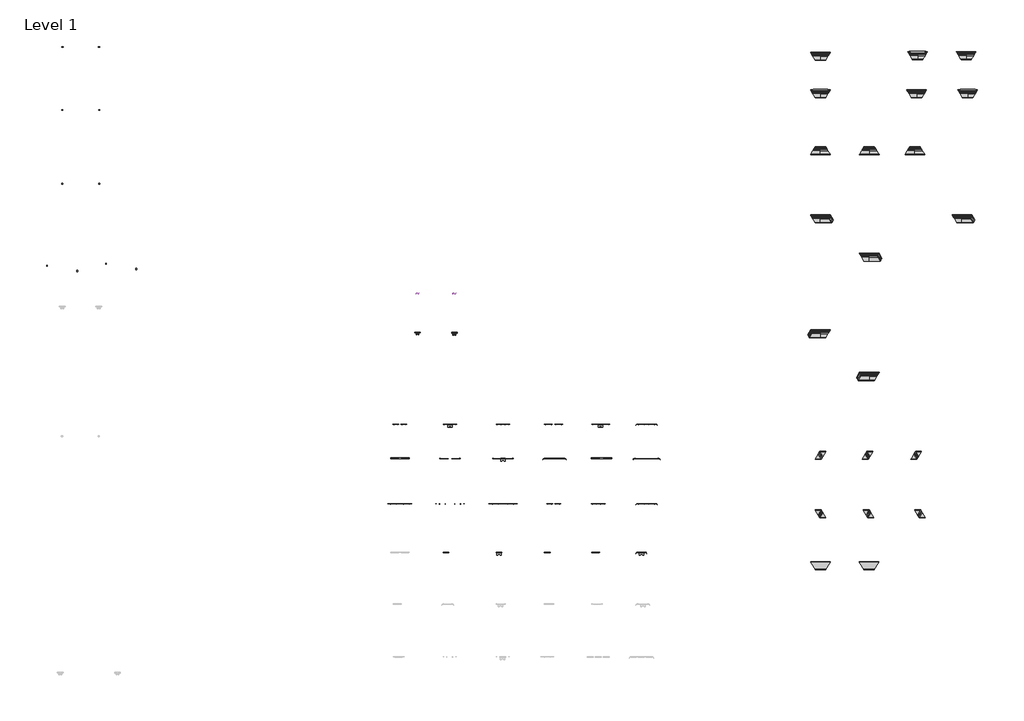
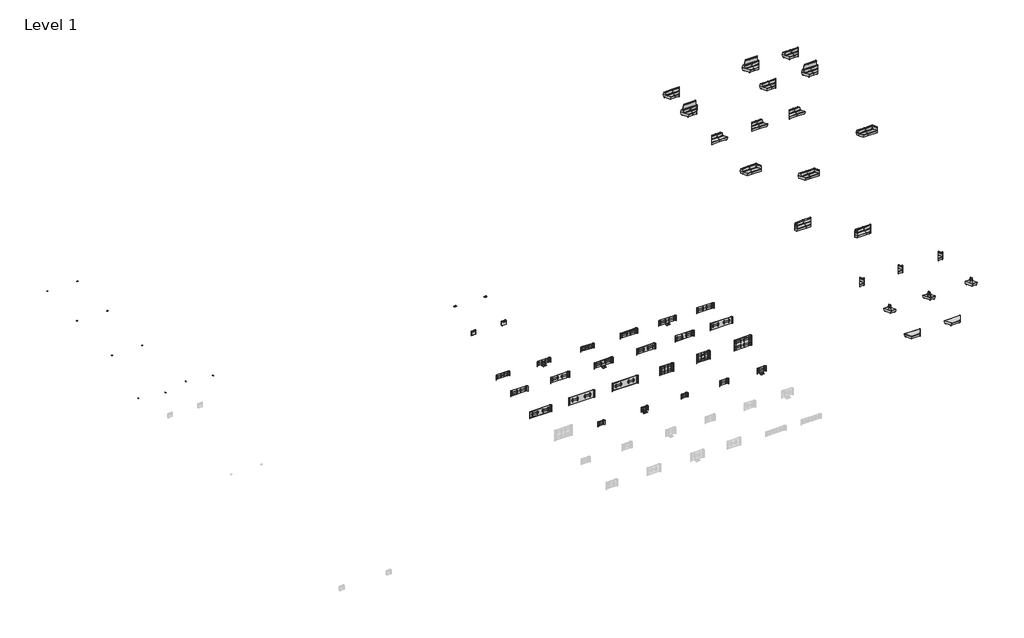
# One storey, part 2 of 2: 59 furniture elements.
"""IFC4 building model written with IfcOpenShell, lengths in millimetres."""

from ifc_helpers import new_model, si_unit, origin, place, context, project, spatial, transform, mapped, element, save
from components import furniture_814a4d4c, furniture_2_1_2in_ef0c8fad, furniture_5_1_2in_ac73947f, multiple_upholstery_front_seat_c7e5a67b, same_upholstery_e157f741, steelcase_media_scape_camera_ledge_e30b2916, steelcase_media_scape_camera_ledge_shroud_mounted_e9ef200e, steelcase_media_scape_lounge_corner_left_multiple_upholstery_f64f1bea, steelcase_media_scape_lounge_corner_left_multiple_upholstery_6188d228, steelcase_media_scape_lounge_corner_left_same_upholstery_da140575, steelcase_media_scape_lounge_corner_right_multiple_61df472c, steelcase_media_scape_lounge_corner_right_same_upholstery_34d01177, steelcase_media_scape_lounge_reverse_left_multiple_538b377f, steelcase_media_scape_lounge_reverse_left_multiple_c18cf6bd, steelcase_media_scape_lounge_reverse_left_same_upholstery_83d11a1b, steelcase_media_scape_lounge_reverse_right_multiple_dd48c680, steelcase_media_scape_lounge_reverse_right_multiple_c0631099, steelcase_media_scape_lounge_reverse_right_same_upholstery_5d3c57fe, steelcase_media_scape_lounge_straight_multiple_upholstery_88f133c7, steelcase_media_scape_lounge_straight_multiple_upholstery_894a7443, steelcase_media_scape_lounge_straight_multiple_upholstery_0c6f12ab, steelcase_media_scape_lounge_straight_multiple_upholstery_071ac3ef, steelcase_media_scape_lounge_straight_multiple_upholstery_2f746f6f, steelcase_media_scape_lounge_straight_same_upholstery_78731be7, steelcase_media_scape_lounge_straight_same_upholstery_with_4bab1c11, steelcase_media_scape_lounge_straight_inverted_multiple_60ef6d6e, steelcase_media_scape_lounge_straight_inverted_multiple_55383deb, steelcase_media_scape_lounge_straight_inverted_same_f796253b, steelcase_media_scape_wall_mounted_shroud_0ad77aa0, steelcase_media_scape_wall_mounted_shroud_3b4f5210, steelcase_media_scape_wall_mounted_shroud_dual_32in_642b713b, steelcase_media_scape_wall_mounted_shroud_dual_32in_bridge_86ff4495, steelcase_media_scape_wall_mounted_shroud_dual_32in_seismic_00f41bd9, steelcase_media_scape_wall_mounted_shroud_dual_42in_44a79b45, steelcase_media_scape_wall_mounted_shroud_dual_42in_bridge_5625bba1, steelcase_media_scape_wall_mounted_shroud_dual_42in_seismic_7c51b7b5, steelcase_media_scape_wall_mounted_shroud_dual_46in_777ef326, steelcase_media_scape_wall_mounted_shroud_dual_46in_bridge_60c83677, steelcase_media_scape_wall_mounted_shroud_dual_46in_seismic_48c09d2e, steelcase_media_scape_wall_mounted_shroud_dual_55in_971d0c28, steelcase_media_scape_wall_mounted_shroud_dual_55in_seismic_f6d9643f, steelcase_media_scape_wall_mounted_shroud_dual_65in_c082a8a5, steelcase_media_scape_wall_mounted_shroud_dual_65in_seismic_f65bf8d6, steelcase_media_scape_wall_mounted_shroud_quad_32in_d3d1e193, steelcase_media_scape_wall_mounted_shroud_quad_32in_seismic_8338c1e4, steelcase_media_scape_wall_mounted_shroud_quad_42in_seismic_1889dec9, steelcase_media_scape_wall_mounted_shroud_single_32in_a1e36d21, steelcase_media_scape_wall_mounted_shroud_single_32in_bridge_9d07bd64, steelcase_media_scape_wall_mounted_shroud_single_32in_7cdeb264, steelcase_media_scape_wall_mounted_shroud_single_42in_983a13c6, steelcase_media_scape_wall_mounted_shroud_single_42in_bridge_d577d0ef

model = new_model("IFC4")

# Units and contexts
model_context = context("Model", 3, world=origin())
ifc_project = project(units=[si_unit("LENGTHUNIT", "METRE", prefix="MILLI")], contexts=[model_context])

# Site, building, storey
site = spatial("IfcSite", under=ifc_project)
building = spatial("IfcBuilding", under=site)
storey = spatial("IfcBuildingStorey", under=building, Name="Level 1", Elevation=0.0)

# Furniture
placement = place(None, origin())
furniture_shape = furniture_814a4d4c(model_context)
element("IfcFurniture", 1, ObjectType="Steelcase - Media Scape - CODEC Case : No Codec Case", at=placement, inside=storey, context=model_context, shape_type="MappedRepresentation", body=[
    mapped(furniture_shape, transform((27687.2903336, -85800.9933016, 257.911593), x_axis=(1.0, 0.0, 0.0), y_axis=(0.0, 1.0, 0.0), z_axis=(0.0, 0.0, 1.0))),
])
element("IfcFurniture", 2, ObjectType="Steelcase - Media Scape - CODEC Case : No Codec Case", at=placement, inside=storey, context=model_context, shape_type="MappedRepresentation", body=[
    mapped(furniture_shape, transform((31519.0665812, -85800.9933016, 257.911593), x_axis=(1.0, 0.0, 0.0), y_axis=(0.0, 1.0, 0.0), z_axis=(0.0, 0.0, 1.0))),
])
element("IfcFurniture", 3, ObjectType="Steelcase - Media Scape - CODEC Case : No Codec Case", at=placement, inside=storey, context=model_context, shape_type="MappedRepresentation", body=[
    mapped(furniture_shape, transform((27699.7513491, -71642.531423, 250.6599), x_axis=(1.0, 0.0, 0.0), y_axis=(0.0, 1.0, 0.0), z_axis=(0.0, 0.0, 1.0))),
])
element("IfcFurniture", 4, ObjectType="Steelcase - Media Scape - CODEC Case : No Codec Case", at=placement, inside=storey, context=model_context, shape_type="MappedRepresentation", body=[
    mapped(furniture_shape, transform((31499.7775966, -71642.531423, 250.6599), x_axis=(1.0, 0.0, 0.0), y_axis=(0.0, 1.0, 0.0), z_axis=(0.0, 0.0, 1.0))),
])
element("IfcFurniture", 5, ObjectType="Steelcase - Media Scape - CODEC Case : No Codec Case", at=placement, inside=storey, context=model_context, shape_type="MappedRepresentation", body=[
    mapped(furniture_shape, transform((27687.2928742, -78175.9995997, 257.9116128), x_axis=(1.0, 0.0, 0.0), y_axis=(0.0, 1.0, 0.0), z_axis=(0.0, 0.0, 1.0))),
])
element("IfcFurniture", 6, ObjectType="Steelcase - Media Scape - CODEC Case : No Codec Case", at=placement, inside=storey, context=model_context, shape_type="MappedRepresentation", body=[
    mapped(furniture_shape, transform((31519.0691218, -78175.9995997, 257.9116128), x_axis=(1.0, 0.0, 0.0), y_axis=(0.0, 1.0, 0.0), z_axis=(0.0, 0.0, 1.0))),
])
element("IfcFurniture", 7, ObjectType="Steelcase - Media Scape - CODEC Case : No Codec Case", at=placement, inside=storey, context=model_context, shape_type="MappedRepresentation", body=[
    mapped(furniture_shape, transform((29052.0123767, -94662.6378431, 244.3098657), x_axis=(0.0, -1.0, 0.0), y_axis=(1.0, 0.0, 0.0), z_axis=(0.0, 0.0, 1.0))),
])
element("IfcFurniture", 8, ObjectType="Steelcase - Media Scape - CODEC Case : No Codec Case", at=placement, inside=storey, context=model_context, shape_type="MappedRepresentation", body=[
    mapped(furniture_shape, transform((26280.9344271, -94112.1109768, 244.3098657), x_axis=(0.0, 1.0000000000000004, 0.0), y_axis=(-1.0000000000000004, 0.0, 0.0), z_axis=(0.0, 0.0, 1.0))),
])
element("IfcFurniture", 9, ObjectType="Steelcase - Media Scape - CODEC Case : No Codec Case", at=placement, inside=storey, context=model_context, shape_type="MappedRepresentation", body=[
    mapped(furniture_shape, transform((35172.229323, -94463.7635337, 244.3098657), x_axis=(0.0, -1.0, 0.0), y_axis=(1.0, 0.0, 0.0), z_axis=(0.0, 0.0, 1.0))),
])
element("IfcFurniture", 10, ObjectType="Steelcase - Media Scape - CODEC Case : No Codec Case", at=placement, inside=storey, context=model_context, shape_type="MappedRepresentation", body=[
    mapped(furniture_shape, transform((32401.1513734, -93913.2366673, 244.3098657), x_axis=(0.0, 1.0000000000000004, 0.0), y_axis=(-1.0000000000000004, 0.0, 0.0), z_axis=(0.0, 0.0, 1.0))),
])
furniture_2_1_2in_shape = furniture_2_1_2in_ef0c8fad(model_context)
element("IfcFurniture", 11, ObjectType="Steelcase - Media Scape - CODEC Case : 2 1/2in", at=placement, inside=storey, context=model_context, shape_type="MappedRepresentation", body=[
    mapped(furniture_2_1_2in_shape, transform((64463.7750238, -101200.6133307, 0.0), x_axis=(1.0, 0.0, 0.0), y_axis=(0.0, 1.0, 0.0), z_axis=(0.0, 0.0, 1.0))),
])
furniture_5_1_2in_shape = furniture_5_1_2in_ac73947f(model_context)
element("IfcFurniture", 12, ObjectType="Steelcase - Media Scape - CODEC Case : 5 1/2in", at=placement, inside=storey, context=model_context, shape_type="MappedRepresentation", body=[
    mapped(furniture_5_1_2in_shape, transform((68273.7750238, -101200.6133307, 0.0), x_axis=(1.0, 0.0, 0.0), y_axis=(0.0, 1.0, 0.0), z_axis=(0.0, 0.0, 1.0))),
])
multiple_upholstery_front_seat_shape = multiple_upholstery_front_seat_c7e5a67b(model_context)
element("IfcFurniture", 13, ObjectType="Steelcase - Media Scape - Lounge - Backless : Multiple Upholstery - Front Seat", at=placement, inside=storey, context=model_context, shape_type="MappedRepresentation", body=[
    mapped(multiple_upholstery_front_seat_shape, transform((105647.292558, -125586.0395077, 0.0), x_axis=(1.0, 0.0, 0.0), y_axis=(0.0, 1.0, 0.0), z_axis=(0.0, 0.0, 1.0))),
])
same_upholstery_shape = same_upholstery_e157f741(model_context)
element("IfcFurniture", 14, ObjectType="Steelcase - Media Scape - Lounge - Backless : Same Upholstery", at=placement, inside=storey, context=model_context, shape_type="MappedRepresentation", body=[
    mapped(same_upholstery_shape, transform((110676.492558, -125586.0395077, 0.0), x_axis=(1.0, 0.0, 0.0), y_axis=(0.0, 1.0, 0.0), z_axis=(0.0, 0.0, 1.0))),
])
steelcase_media_scape_camera_ledge_shape = steelcase_media_scape_camera_ledge_e30b2916(model_context)
element("IfcFurniture", 15, ObjectType="Steelcase - Media Scape - Camera Ledge : Totem Mounted", at=placement, inside=storey, context=model_context, shape_type="MappedRepresentation", body=[
    mapped(steelcase_media_scape_camera_ledge_shape, transform((68273.7750238, -97085.8133307, 0.0), x_axis=(1.0, 0.0, 0.0), y_axis=(0.0, 1.0, 0.0), z_axis=(0.0, 0.0, 1.0))),
])
steelcase_media_scape_camera_ledge_shroud_mounted_shape = steelcase_media_scape_camera_ledge_shroud_mounted_e9ef200e(model_context)
element("IfcFurniture", 16, ObjectType="Steelcase - Media Scape - Camera Ledge : Shroud Mounted", at=placement, inside=storey, context=model_context, shape_type="MappedRepresentation", body=[
    mapped(steelcase_media_scape_camera_ledge_shroud_mounted_shape, transform((64463.7750238, -97085.8133307, 0.0), x_axis=(1.0, 0.0, 0.0), y_axis=(0.0, 1.0, 0.0), z_axis=(0.0, 0.0, 1.0))),
])
steelcase_media_scape_lounge_corner_left_multiple_upholstery_shape = steelcase_media_scape_lounge_corner_left_multiple_upholstery_f64f1bea(model_context)
element("IfcFurniture", 17, ObjectType="Steelcase - Media Scape - Lounge - Corner Left : Multiple Upholstery - Edge", at=placement, inside=storey, context=model_context, shape_type="MappedRepresentation", body=[
    mapped(steelcase_media_scape_lounge_corner_left_multiple_upholstery_shape, transform((105643.8026188, -89689.4435496, 0.0), x_axis=(1.0, 0.0, 0.0), y_axis=(0.0, 1.0, 0.0), z_axis=(0.0, 0.0, 1.0))),
])
steelcase_media_scape_lounge_corner_left_multiple_upholstery_2_shape = steelcase_media_scape_lounge_corner_left_multiple_upholstery_6188d228(model_context)
element("IfcFurniture", 18, ObjectType="Steelcase - Media Scape - Lounge - Corner Left : Multiple Upholstery - Front Seat and Back", at=placement, inside=storey, context=model_context, shape_type="MappedRepresentation", body=[
    mapped(steelcase_media_scape_lounge_corner_left_multiple_upholstery_2_shape, transform((120298.0736281, -89689.4435496, 0.0), x_axis=(1.0, 0.0, 0.0), y_axis=(0.0, 1.0, 0.0), z_axis=(0.0, 0.0, 1.0))),
])
steelcase_media_scape_lounge_corner_left_same_upholstery_shape = steelcase_media_scape_lounge_corner_left_same_upholstery_da140575(model_context)
element("IfcFurniture", 19, ObjectType="Steelcase - Media Scape - Lounge - Corner Left : Same Upholstery", at=placement, inside=storey, context=model_context, shape_type="MappedRepresentation", body=[
    mapped(steelcase_media_scape_lounge_corner_left_same_upholstery_shape, transform((110696.8736281, -93651.8435496, 0.0), x_axis=(1.0, 0.0, 0.0), y_axis=(0.0, 1.0, 0.0), z_axis=(0.0, 0.0, 1.0))),
])
steelcase_media_scape_lounge_corner_right_multiple_shape = steelcase_media_scape_lounge_corner_right_multiple_61df472c(model_context)
element("IfcFurniture", 20, ObjectType="Steelcase - Media Scape - Lounge - Corner Right : Multiple Upholstery - Edge", at=placement, inside=storey, context=model_context, shape_type="MappedRepresentation", body=[
    mapped(steelcase_media_scape_lounge_corner_right_multiple_shape, transform((106708.7102025, -101576.6435496, 0.0), x_axis=(1.0, 0.0, 0.0), y_axis=(0.0, 1.0, 0.0), z_axis=(0.0, 0.0, 1.0))),
])
steelcase_media_scape_lounge_corner_right_same_upholstery_shape = steelcase_media_scape_lounge_corner_right_same_upholstery_34d01177(model_context)
element("IfcFurniture", 21, ObjectType="Steelcase - Media Scape - Lounge - Corner Right : Same Upholstery", at=placement, inside=storey, context=model_context, shape_type="MappedRepresentation", body=[
    mapped(steelcase_media_scape_lounge_corner_right_same_upholstery_shape, transform((111761.7812119, -105996.2435496, 0.0), x_axis=(1.0, 0.0, 0.0), y_axis=(0.0, 1.0, 0.0), z_axis=(0.0, 0.0, 1.0))),
])
steelcase_media_scape_lounge_reverse_left_multiple_shape = steelcase_media_scape_lounge_reverse_left_multiple_538b377f(model_context)
element("IfcFurniture", 22, ObjectType="Steelcase - Media Scape - Lounge - Reverse Left : Multiple Upholstery - Edge", at=placement, inside=storey, context=model_context, shape_type="MappedRepresentation", body=[
    mapped(steelcase_media_scape_lounge_reverse_left_multiple_shape, transform((105630.4554525, -114153.938484, 0.0), x_axis=(1.0, 0.0, 0.0), y_axis=(0.0, 1.0, 0.0), z_axis=(0.0, 0.0, 1.0))),
])
steelcase_media_scape_lounge_reverse_left_multiple_2_shape = steelcase_media_scape_lounge_reverse_left_multiple_c18cf6bd(model_context)
element("IfcFurniture", 23, ObjectType="Steelcase - Media Scape - Lounge - Reverse Left : Multiple Upholstery - Front Seat and Back", at=placement, inside=storey, context=model_context, shape_type="MappedRepresentation", body=[
    mapped(steelcase_media_scape_lounge_reverse_left_multiple_2_shape, transform((110507.2554525, -114153.938484, 0.0), x_axis=(1.0, 0.0, 0.0), y_axis=(0.0, 1.0, 0.0), z_axis=(0.0, 0.0, 1.0))),
])
steelcase_media_scape_lounge_reverse_left_same_upholstery_shape = steelcase_media_scape_lounge_reverse_left_same_upholstery_83d11a1b(model_context)
element("IfcFurniture", 24, ObjectType="Steelcase - Media Scape - Lounge - Reverse Left : Same Upholstery", at=placement, inside=storey, context=model_context, shape_type="MappedRepresentation", body=[
    mapped(steelcase_media_scape_lounge_reverse_left_same_upholstery_shape, transform((115542.8054525, -114153.938484, 0.0), x_axis=(1.0, 0.0, 0.0), y_axis=(0.0, 1.0, 0.0), z_axis=(0.0, 0.0, 1.0))),
])
steelcase_media_scape_lounge_reverse_right_multiple_shape = steelcase_media_scape_lounge_reverse_right_multiple_dd48c680(model_context)
element("IfcFurniture", 25, ObjectType="Steelcase - Media Scape - Lounge - Reverse Right : Multiple Upholstery - Edge", at=placement, inside=storey, context=model_context, shape_type="MappedRepresentation", body=[
    mapped(steelcase_media_scape_lounge_reverse_right_multiple_shape, transform((106729.0054525, -120224.9604191, 0.0), x_axis=(1.0, 0.0, 0.0), y_axis=(0.0, 1.0, 0.0), z_axis=(0.0, 0.0, 1.0))),
])
steelcase_media_scape_lounge_reverse_right_multiple_2_shape = steelcase_media_scape_lounge_reverse_right_multiple_c0631099(model_context)
element("IfcFurniture", 26, ObjectType="Steelcase - Media Scape - Lounge - Reverse Right : Multiple Upholstery - Front Seat and Back", at=placement, inside=storey, context=model_context, shape_type="MappedRepresentation", body=[
    mapped(steelcase_media_scape_lounge_reverse_right_multiple_2_shape, transform((111707.4054525, -120224.9604191, 0.0), x_axis=(1.0, 0.0, 0.0), y_axis=(0.0, 1.0, 0.0), z_axis=(0.0, 0.0, 1.0))),
])
steelcase_media_scape_lounge_reverse_right_same_upholstery_shape = steelcase_media_scape_lounge_reverse_right_same_upholstery_5d3c57fe(model_context)
element("IfcFurniture", 27, ObjectType="Steelcase - Media Scape - Lounge - Reverse Right : Same Upholstery", at=placement, inside=storey, context=model_context, shape_type="MappedRepresentation", body=[
    mapped(steelcase_media_scape_lounge_reverse_right_same_upholstery_shape, transform((117017.7850824, -120224.9604191, 0.0), x_axis=(1.0, 0.0, 0.0), y_axis=(0.0, 1.0, 0.0), z_axis=(0.0, 0.0, 1.0))),
])
steelcase_media_scape_lounge_straight_multiple_upholstery_shape = steelcase_media_scape_lounge_straight_multiple_upholstery_88f133c7(model_context)
element("IfcFurniture", 28, ObjectType="Steelcase - Media Scape - Lounge - Straight : Multiple Upholstery - Edge", at=placement, inside=storey, context=model_context, shape_type="MappedRepresentation", body=[
    mapped(steelcase_media_scape_lounge_straight_multiple_upholstery_shape, transform((105647.292558, -72853.538484, 0.0), x_axis=(1.0, 0.0, 0.0), y_axis=(0.0, 1.0, 0.0), z_axis=(0.0, 0.0, 1.0))),
])
steelcase_media_scape_lounge_straight_multiple_upholstery_2_shape = steelcase_media_scape_lounge_straight_multiple_upholstery_894a7443(model_context)
element("IfcFurniture", 29, ObjectType="Steelcase - Media Scape - Lounge - Straight : Multiple Upholstery - Edge with Canopy", at=placement, inside=storey, context=model_context, shape_type="MappedRepresentation", body=[
    mapped(steelcase_media_scape_lounge_straight_multiple_upholstery_2_shape, transform((115705.692558, -72773.0435496, 0.0), x_axis=(1.0, 0.0, 0.0), y_axis=(0.0, 1.0, 0.0), z_axis=(0.0, 0.0, 1.0))),
])
steelcase_media_scape_lounge_straight_multiple_upholstery_3_shape = steelcase_media_scape_lounge_straight_multiple_upholstery_0c6f12ab(model_context)
element("IfcFurniture", 30, ObjectType="Steelcase - Media Scape - Lounge - Straight : Multiple Upholstery - Front Seat and Back", at=placement, inside=storey, context=model_context, shape_type="MappedRepresentation", body=[
    mapped(steelcase_media_scape_lounge_straight_multiple_upholstery_3_shape, transform((120734.892558, -72773.0435496, 0.0), x_axis=(1.0, 0.0, 0.0), y_axis=(0.0, 1.0, 0.0), z_axis=(0.0, 0.0, 1.0))),
])
steelcase_media_scape_lounge_straight_multiple_upholstery_4_shape = steelcase_media_scape_lounge_straight_multiple_upholstery_071ac3ef(model_context)
steelcase_media_scape_lounge_straight_multiple_upholstery_5_shape = steelcase_media_scape_lounge_straight_multiple_upholstery_2f746f6f(model_context)
element("IfcFurniture", 31, ObjectType="Steelcase - Media Scape - Lounge - Straight : Multiple Upholstery - Front Seat and Back with Canopy", at=placement, inside=storey, context=model_context, shape_type="MappedRepresentation", body=[
    mapped(steelcase_media_scape_lounge_straight_multiple_upholstery_4_shape, transform((105647.292558, -76735.4435496, 0.0), x_axis=(1.0, 0.0, 0.0), y_axis=(0.0, 1.0, 0.0), z_axis=(0.0, 0.0, 1.0))),
    mapped(steelcase_media_scape_lounge_straight_multiple_upholstery_5_shape, transform((105647.292558, -76735.4435496, 0.0), x_axis=(1.0, 0.0, 0.0), y_axis=(0.0, 1.0, 0.0), z_axis=(0.0, 0.0, 1.0))),
])
steelcase_media_scape_lounge_straight_same_upholstery_shape = steelcase_media_scape_lounge_straight_same_upholstery_78731be7(model_context)
element("IfcFurniture", 32, ObjectType="Steelcase - Media Scape - Lounge - Straight : Same Upholstery", at=placement, inside=storey, context=model_context, shape_type="MappedRepresentation", body=[
    mapped(steelcase_media_scape_lounge_straight_same_upholstery_shape, transform((115604.092558, -76735.4435496, 0.0), x_axis=(1.0, 0.0, 0.0), y_axis=(0.0, 1.0, 0.0), z_axis=(0.0, 0.0, 1.0))),
])
steelcase_media_scape_lounge_straight_same_upholstery_with_shape = steelcase_media_scape_lounge_straight_same_upholstery_with_4bab1c11(model_context)
element("IfcFurniture", 33, ObjectType="Steelcase - Media Scape - Lounge - Straight : Same Upholstery with Canopy", at=placement, inside=storey, context=model_context, shape_type="MappedRepresentation", body=[
    mapped(steelcase_media_scape_lounge_straight_same_upholstery_with_shape, transform((120887.292558, -76735.4435496, 0.0), x_axis=(1.0, 0.0, 0.0), y_axis=(0.0, 1.0, 0.0), z_axis=(0.0, 0.0, 1.0))),
])
steelcase_media_scape_lounge_straight_inverted_multiple_shape = steelcase_media_scape_lounge_straight_inverted_multiple_60ef6d6e(model_context)
element("IfcFurniture", 34, ObjectType="Steelcase - Media Scape - Lounge - Straight Inverted : Multiple Upholstery - Edge", at=placement, inside=storey, context=model_context, shape_type="MappedRepresentation", body=[
    mapped(steelcase_media_scape_lounge_straight_inverted_multiple_shape, transform((105161.5610959, -82607.138484, 0.0), x_axis=(1.0, 0.0, 0.0), y_axis=(0.0, 1.0, 0.0), z_axis=(0.0, 0.0, 1.0))),
])
steelcase_media_scape_lounge_straight_inverted_multiple_2_shape = steelcase_media_scape_lounge_straight_inverted_multiple_55383deb(model_context)
element("IfcFurniture", 35, ObjectType="Steelcase - Media Scape - Lounge - Straight Inverted : Multiple Upholstery - Front Seat and Back", at=placement, inside=storey, context=model_context, shape_type="MappedRepresentation", body=[
    mapped(steelcase_media_scape_lounge_straight_inverted_multiple_2_shape, transform((110214.6321052, -82607.138484, 0.0), x_axis=(1.0, 0.0, 0.0), y_axis=(0.0, 1.0, 0.0), z_axis=(0.0, 0.0, 1.0))),
])
steelcase_media_scape_lounge_straight_inverted_same_shape = steelcase_media_scape_lounge_straight_inverted_same_f796253b(model_context)
element("IfcFurniture", 36, ObjectType="Steelcase - Media Scape - Lounge - Straight Inverted : Same Upholstery", at=placement, inside=storey, context=model_context, shape_type="MappedRepresentation", body=[
    mapped(steelcase_media_scape_lounge_straight_inverted_same_shape, transform((114939.0321052, -82607.138484, 0.0), x_axis=(1.0, 0.0, 0.0), y_axis=(0.0, 1.0, 0.0), z_axis=(0.0, 0.0, 1.0))),
])
steelcase_media_scape_wall_mounted_shroud_shape = steelcase_media_scape_wall_mounted_shroud_0ad77aa0(model_context)
element("IfcFurniture", 37, ObjectType="Steelcase - Media Scape - Wall-Mounted Shroud : Dual - 42in with CODEC Case", at=placement, inside=storey, context=model_context, shape_type="MappedRepresentation", body=[
    mapped(steelcase_media_scape_wall_mounted_shroud_shape, transform((62640.3090238, -114047.920482, 0.0), x_axis=(1.0, 0.0, 0.0), y_axis=(0.0, 1.0, 0.0), z_axis=(0.0, 0.0, 1.0))),
])
steelcase_media_scape_wall_mounted_shroud_2_shape = steelcase_media_scape_wall_mounted_shroud_3b4f5210(model_context)
element("IfcFurniture", 38, ObjectType="Steelcase - Media Scape - Wall-Mounted Shroud : Dual - 46in with CODEC Case", at=placement, inside=storey, context=model_context, shape_type="MappedRepresentation", body=[
    mapped(steelcase_media_scape_wall_mounted_shroud_2_shape, transform((83531.8090238, -114047.920482, 0.0), x_axis=(1.0, 0.0, 0.0), y_axis=(0.0, 1.0, 0.0), z_axis=(0.0, 0.0, 1.0))),
])
steelcase_media_scape_wall_mounted_shroud_dual_32in_shape = steelcase_media_scape_wall_mounted_shroud_dual_32in_642b713b(model_context)
element("IfcFurniture", 39, ObjectType="Steelcase - Media Scape - Wall-Mounted Shroud : Dual - 32in", at=placement, inside=storey, context=model_context, shape_type="MappedRepresentation", body=[
    mapped(steelcase_media_scape_wall_mounted_shroud_dual_32in_shape, transform((62640.3090238, -110504.620482, 0.0), x_axis=(1.0, 0.0, 0.0), y_axis=(0.0, 1.0, 0.0), z_axis=(0.0, 0.0, 1.0))),
])
steelcase_media_scape_wall_mounted_shroud_dual_32in_bridge_shape = steelcase_media_scape_wall_mounted_shroud_dual_32in_bridge_86ff4495(model_context)
element("IfcFurniture", 40, ObjectType="Steelcase - Media Scape - Wall-Mounted Shroud : Dual - 32in - Bridge", at=placement, inside=storey, context=model_context, shape_type="MappedRepresentation", body=[
    mapped(steelcase_media_scape_wall_mounted_shroud_dual_32in_bridge_shape, transform((67821.9090238, -110504.620482, 0.0), x_axis=(1.0, 0.0, 0.0), y_axis=(0.0, 1.0, 0.0), z_axis=(0.0, 0.0, 1.0))),
])
steelcase_media_scape_wall_mounted_shroud_dual_32in_seismic_shape = steelcase_media_scape_wall_mounted_shroud_dual_32in_seismic_00f41bd9(model_context)
element("IfcFurniture", 41, ObjectType="Steelcase - Media Scape - Wall-Mounted Shroud : Dual - 32in - Seismic", at=placement, inside=storey, context=model_context, shape_type="MappedRepresentation", body=[
    mapped(steelcase_media_scape_wall_mounted_shroud_dual_32in_seismic_shape, transform((73308.3090238, -110504.620482, 0.0), x_axis=(1.0, 0.0, 0.0), y_axis=(0.0, 1.0, 0.0), z_axis=(0.0, 0.0, 1.0))),
])
steelcase_media_scape_wall_mounted_shroud_dual_42in_shape = steelcase_media_scape_wall_mounted_shroud_dual_42in_44a79b45(model_context)
element("IfcFurniture", 42, ObjectType="Steelcase - Media Scape - Wall-Mounted Shroud : Dual - 42in", at=placement, inside=storey, context=model_context, shape_type="MappedRepresentation", body=[
    mapped(steelcase_media_scape_wall_mounted_shroud_dual_42in_shape, transform((78553.4090238, -110504.620482, 0.0), x_axis=(1.0, 0.0, 0.0), y_axis=(0.0, 1.0, 0.0), z_axis=(0.0, 0.0, 1.0))),
])
steelcase_media_scape_wall_mounted_shroud_dual_42in_bridge_shape = steelcase_media_scape_wall_mounted_shroud_dual_42in_bridge_5625bba1(model_context)
element("IfcFurniture", 43, ObjectType="Steelcase - Media Scape - Wall-Mounted Shroud : Dual - 42in - Bridge", at=placement, inside=storey, context=model_context, shape_type="MappedRepresentation", body=[
    mapped(steelcase_media_scape_wall_mounted_shroud_dual_42in_bridge_shape, transform((83430.2090238, -110504.620482, 0.0), x_axis=(1.0, 0.0, 0.0), y_axis=(0.0, 1.0, 0.0), z_axis=(0.0, 0.0, 1.0))),
])
steelcase_media_scape_wall_mounted_shroud_dual_42in_seismic_shape = steelcase_media_scape_wall_mounted_shroud_dual_42in_seismic_7c51b7b5(model_context)
element("IfcFurniture", 44, ObjectType="Steelcase - Media Scape - Wall-Mounted Shroud : Dual - 42in - Seismic", at=placement, inside=storey, context=model_context, shape_type="MappedRepresentation", body=[
    mapped(steelcase_media_scape_wall_mounted_shroud_dual_42in_seismic_shape, transform((88178.4800332, -110504.620482, 0.0), x_axis=(1.0, 0.0, 0.0), y_axis=(0.0, 1.0, 0.0), z_axis=(0.0, 0.0, 1.0))),
])
steelcase_media_scape_wall_mounted_shroud_dual_46in_shape = steelcase_media_scape_wall_mounted_shroud_dual_46in_777ef326(model_context)
element("IfcFurniture", 45, ObjectType="Steelcase - Media Scape - Wall-Mounted Shroud : Dual - 46in", at=placement, inside=storey, context=model_context, shape_type="MappedRepresentation", body=[
    mapped(steelcase_media_scape_wall_mounted_shroud_dual_46in_shape, transform((67821.9090238, -114047.920482, 0.0), x_axis=(1.0, 0.0, 0.0), y_axis=(0.0, 1.0, 0.0), z_axis=(0.0, 0.0, 1.0))),
])
steelcase_media_scape_wall_mounted_shroud_dual_46in_bridge_shape = steelcase_media_scape_wall_mounted_shroud_dual_46in_bridge_60c83677(model_context)
element("IfcFurniture", 46, ObjectType="Steelcase - Media Scape - Wall-Mounted Shroud : Dual - 46in - Bridge", at=placement, inside=storey, context=model_context, shape_type="MappedRepresentation", body=[
    mapped(steelcase_media_scape_wall_mounted_shroud_dual_46in_bridge_shape, transform((73308.3090238, -114047.920482, 0.0), x_axis=(1.0, 0.0, 0.0), y_axis=(0.0, 1.0, 0.0), z_axis=(0.0, 0.0, 1.0))),
])
steelcase_media_scape_wall_mounted_shroud_dual_46in_seismic_shape = steelcase_media_scape_wall_mounted_shroud_dual_46in_seismic_48c09d2e(model_context)
element("IfcFurniture", 47, ObjectType="Steelcase - Media Scape - Wall-Mounted Shroud : Dual - 46in - Seismic", at=placement, inside=storey, context=model_context, shape_type="MappedRepresentation", body=[
    mapped(steelcase_media_scape_wall_mounted_shroud_dual_46in_seismic_shape, transform((78655.0090238, -114047.920482, 0.0), x_axis=(1.0, 0.0, 0.0), y_axis=(0.0, 1.0, 0.0), z_axis=(0.0, 0.0, 1.0))),
])
steelcase_media_scape_wall_mounted_shroud_dual_55in_shape = steelcase_media_scape_wall_mounted_shroud_dual_55in_971d0c28(model_context)
element("IfcFurniture", 48, ObjectType="Steelcase - Media Scape - Wall-Mounted Shroud : Dual - 55in", at=placement, inside=storey, context=model_context, shape_type="MappedRepresentation", body=[
    mapped(steelcase_media_scape_wall_mounted_shroud_dual_55in_shape, transform((88178.4800332, -114047.920482, 0.0), x_axis=(1.0, 0.0, 0.0), y_axis=(0.0, 1.0, 0.0), z_axis=(0.0, 0.0, 1.0))),
])
steelcase_media_scape_wall_mounted_shroud_dual_55in_seismic_shape = steelcase_media_scape_wall_mounted_shroud_dual_55in_seismic_f6d9643f(model_context)
element("IfcFurniture", 49, ObjectType="Steelcase - Media Scape - Wall-Mounted Shroud : Dual - 55in - Seismic", at=placement, inside=storey, context=model_context, shape_type="MappedRepresentation", body=[
    mapped(steelcase_media_scape_wall_mounted_shroud_dual_55in_seismic_shape, transform((62640.3090238, -118734.220482, 0.0), x_axis=(1.0, 0.0, 0.0), y_axis=(0.0, 1.0, 0.0), z_axis=(0.0, 0.0, 1.0))),
])
steelcase_media_scape_wall_mounted_shroud_dual_65in_shape = steelcase_media_scape_wall_mounted_shroud_dual_65in_c082a8a5(model_context)
element("IfcFurniture", 50, ObjectType="Steelcase - Media Scape - Wall-Mounted Shroud : Dual - 65in", at=placement, inside=storey, context=model_context, shape_type="MappedRepresentation", body=[
    mapped(steelcase_media_scape_wall_mounted_shroud_dual_65in_shape, transform((67821.9090238, -118734.220482, 0.0), x_axis=(1.0, 0.0, 0.0), y_axis=(0.0, 1.0, 0.0), z_axis=(0.0, 0.0, 1.0))),
])
steelcase_media_scape_wall_mounted_shroud_dual_65in_seismic_shape = steelcase_media_scape_wall_mounted_shroud_dual_65in_seismic_f65bf8d6(model_context)
element("IfcFurniture", 51, ObjectType="Steelcase - Media Scape - Wall-Mounted Shroud : Dual - 65in - Seismic", at=placement, inside=storey, context=model_context, shape_type="MappedRepresentation", body=[
    mapped(steelcase_media_scape_wall_mounted_shroud_dual_65in_seismic_shape, transform((73308.3090238, -118734.220482, 0.0), x_axis=(1.0, 0.0, 0.0), y_axis=(0.0, 1.0, 0.0), z_axis=(0.0, 0.0, 1.0))),
])
steelcase_media_scape_wall_mounted_shroud_quad_32in_shape = steelcase_media_scape_wall_mounted_shroud_quad_32in_d3d1e193(model_context)
element("IfcFurniture", 52, ObjectType="Steelcase - Media Scape - Wall-Mounted Shroud : Quad - 32in", at=placement, inside=storey, context=model_context, shape_type="MappedRepresentation", body=[
    mapped(steelcase_media_scape_wall_mounted_shroud_quad_32in_shape, transform((78553.4090238, -118734.220482, 0.0), x_axis=(1.0, 0.0, 0.0), y_axis=(0.0, 1.0, 0.0), z_axis=(0.0, 0.0, 1.0))),
])
steelcase_media_scape_wall_mounted_shroud_quad_32in_seismic_shape = steelcase_media_scape_wall_mounted_shroud_quad_32in_seismic_8338c1e4(model_context)
element("IfcFurniture", 53, ObjectType="Steelcase - Media Scape - Wall-Mounted Shroud : Quad - 32in - Seismic", at=placement, inside=storey, context=model_context, shape_type="MappedRepresentation", body=[
    mapped(steelcase_media_scape_wall_mounted_shroud_quad_32in_seismic_shape, transform((83188.9090238, -118734.220482, 0.0), x_axis=(1.0, 0.0, 0.0), y_axis=(0.0, 1.0, 0.0), z_axis=(0.0, 0.0, 1.0))),
])
steelcase_media_scape_wall_mounted_shroud_quad_42in_seismic_shape = steelcase_media_scape_wall_mounted_shroud_quad_42in_seismic_1889dec9(model_context)
element("IfcFurniture", 54, ObjectType="Steelcase - Media Scape - Wall-Mounted Shroud : Quad - 42in", at=placement, inside=storey, context=model_context, shape_type="MappedRepresentation", body=[
    mapped(steelcase_media_scape_wall_mounted_shroud_quad_42in_seismic_shape, transform((88178.4800332, -118734.220482, 0.0), x_axis=(1.0, 0.0, 0.0), y_axis=(0.0, 1.0, 0.0), z_axis=(0.0, 0.0, 1.0))),
])
steelcase_media_scape_wall_mounted_shroud_single_32in_shape = steelcase_media_scape_wall_mounted_shroud_single_32in_a1e36d21(model_context)
element("IfcFurniture", 55, ObjectType="Steelcase - Media Scape - Wall-Mounted Shroud : Single - 32in", at=placement, inside=storey, context=model_context, shape_type="MappedRepresentation", body=[
    mapped(steelcase_media_scape_wall_mounted_shroud_single_32in_shape, transform((67415.5090238, -123763.420482, 0.0), x_axis=(1.0, 0.0, 0.0), y_axis=(0.0, 1.0, 0.0), z_axis=(0.0, 0.0, 1.0))),
])
steelcase_media_scape_wall_mounted_shroud_single_32in_bridge_shape = steelcase_media_scape_wall_mounted_shroud_single_32in_bridge_9d07bd64(model_context)
element("IfcFurniture", 56, ObjectType="Steelcase - Media Scape - Wall-Mounted Shroud : Single - 32in - Bridge", at=placement, inside=storey, context=model_context, shape_type="MappedRepresentation", body=[
    mapped(steelcase_media_scape_wall_mounted_shroud_single_32in_bridge_shape, transform((72901.9090238, -123763.420482, 0.0), x_axis=(1.0, 0.0, 0.0), y_axis=(0.0, 1.0, 0.0), z_axis=(0.0, 0.0, 1.0))),
])
steelcase_media_scape_wall_mounted_shroud_single_32in_2_shape = steelcase_media_scape_wall_mounted_shroud_single_32in_7cdeb264(model_context)
element("IfcFurniture", 57, ObjectType="Steelcase - Media Scape - Wall-Mounted Shroud : Single - 32in - Seismic", at=placement, inside=storey, context=model_context, shape_type="MappedRepresentation", body=[
    mapped(steelcase_media_scape_wall_mounted_shroud_single_32in_2_shape, transform((77905.7090238, -123763.420482, 0.0), x_axis=(1.0, 0.0, 0.0), y_axis=(0.0, 1.0, 0.0), z_axis=(0.0, 0.0, 1.0))),
])
steelcase_media_scape_wall_mounted_shroud_single_42in_shape = steelcase_media_scape_wall_mounted_shroud_single_42in_983a13c6(model_context)
element("IfcFurniture", 58, ObjectType="Steelcase - Media Scape - Wall-Mounted Shroud : Single - 42in", at=placement, inside=storey, context=model_context, shape_type="MappedRepresentation", body=[
    mapped(steelcase_media_scape_wall_mounted_shroud_single_42in_shape, transform((82896.8090238, -123763.420482, 0.0), x_axis=(1.0, 0.0, 0.0), y_axis=(0.0, 1.0, 0.0), z_axis=(0.0, 0.0, 1.0))),
])
steelcase_media_scape_wall_mounted_shroud_single_42in_bridge_shape = steelcase_media_scape_wall_mounted_shroud_single_42in_bridge_d577d0ef(model_context)
element("IfcFurniture", 59, ObjectType="Steelcase - Media Scape - Wall-Mounted Shroud : Single - 42in - Bridge", at=placement, inside=storey, context=model_context, shape_type="MappedRepresentation", body=[
    mapped(steelcase_media_scape_wall_mounted_shroud_single_42in_bridge_shape, transform((87645.0800332, -123763.420482, 0.0), x_axis=(1.0, 0.0, 0.0), y_axis=(0.0, 1.0, 0.0), z_axis=(0.0, 0.0, 1.0))),
])

save(model, "model.ifc")
